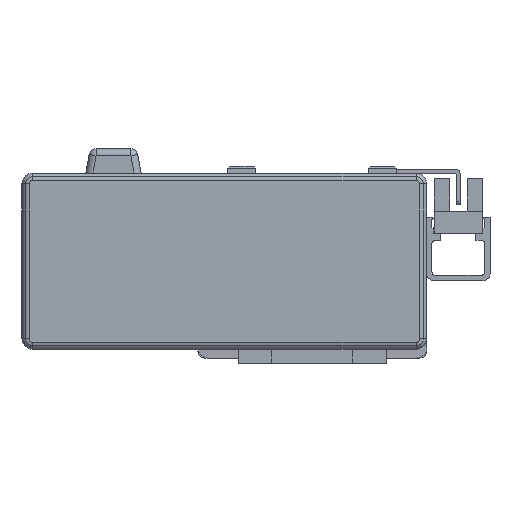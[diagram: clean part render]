
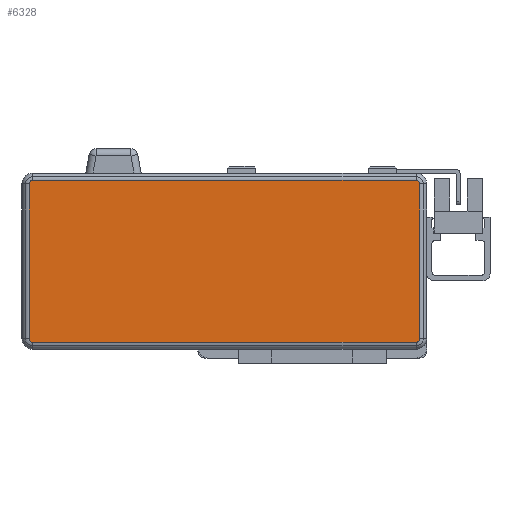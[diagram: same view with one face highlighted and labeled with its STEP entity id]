
A CAD part, left-side view. The second image highlights one B-rep face of the part: STEP entity #6328.
In plain terms, the highlighted planar face has unit normal (-1, 0, 0) as drawn and (0, 0, 1) by its records, which use the part's own axes.
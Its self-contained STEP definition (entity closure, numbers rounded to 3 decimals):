
#276 = VECTOR ( 'NONE', #8045, 1000. ) ;
#378 = LINE ( 'NONE', #1188, #276 ) ;
#395 = VERTEX_POINT ( 'NONE', #9225 ) ;
#436 = DIRECTION ( 'NONE',  ( 0., 0., 1. ) ) ;
#683 = VECTOR ( 'NONE', #3147, 1000. ) ;
#718 = LINE ( 'NONE', #16557, #683 ) ;
#746 = CIRCLE ( 'NONE', #5226, 1. ) ;
#1000 = DIRECTION ( 'NONE',  ( 0., 0., 1. ) ) ;
#1188 = CARTESIAN_POINT ( 'NONE',  ( -55.5, 0., 40. ) ) ;
#1318 = CIRCLE ( 'NONE', #5446, 1. ) ;
#1404 = VECTOR ( 'NONE', #20177, 1000. ) ;
#1427 = LINE ( 'NONE', #13721, #1404 ) ;
#1493 = VERTEX_POINT ( 'NONE', #26082 ) ;
#1557 = CARTESIAN_POINT ( 'NONE',  ( -54.5, -22., 40. ) ) ;
#1664 = CIRCLE ( 'NONE', #5531, 1. ) ;
#1874 = VECTOR ( 'NONE', #17619, 1000. ) ;
#1930 = LINE ( 'NONE', #17706, #1874 ) ;
#2371 = DIRECTION ( 'NONE',  ( 0., 0., 1. ) ) ;
#2717 = CARTESIAN_POINT ( 'NONE',  ( -54.5, 23., 40. ) ) ;
#3071 = CARTESIAN_POINT ( 'NONE',  ( 55.5, -22., 40. ) ) ;
#3147 = DIRECTION ( 'NONE',  ( -1., 0., 0. ) ) ;
#3836 = DIRECTION ( 'NONE',  ( -1., 0., 0. ) ) ;
#4401 = VERTEX_POINT ( 'NONE', #27912 ) ;
#4447 = VERTEX_POINT ( 'NONE', #17860 ) ;
#4996 = AXIS2_PLACEMENT_3D ( 'NONE', #1557, #17200, #3836 ) ;
#5064 = CARTESIAN_POINT ( 'NONE',  ( -55.5, -22., 40. ) ) ;
#5226 = AXIS2_PLACEMENT_3D ( 'NONE', #14412, #1000, #16645 ) ;
#5446 = AXIS2_PLACEMENT_3D ( 'NONE', #13815, #436, #16089 ) ;
#5531 = AXIS2_PLACEMENT_3D ( 'NONE', #15801, #2371, #17990 ) ;
#5926 = VERTEX_POINT ( 'NONE', #2717 ) ;
#6328 = ADVANCED_FACE ( 'NONE', ( #15116 ), #7762, .F. ) ;
#7762 = PLANE ( 'NONE',  #11629 ) ;
#8045 = DIRECTION ( 'NONE',  ( 0., -1., 0. ) ) ;
#8441 = EDGE_CURVE ( 'NONE', #395, #1493, #1930, .T. ) ;
#8490 = EDGE_CURVE ( 'NONE', #1493, #27071, #1664, .T. ) ;
#8530 = EDGE_CURVE ( 'NONE', #27071, #4447, #1427, .T. ) ;
#8537 = EDGE_CURVE ( 'NONE', #4447, #4401, #1318, .T. ) ;
#8620 = EDGE_CURVE ( 'NONE', #4401, #5926, #718, .T. ) ;
#8629 = EDGE_CURVE ( 'NONE', #5926, #26832, #746, .T. ) ;
#8672 = EDGE_CURVE ( 'NONE', #26832, #26926, #378, .T. ) ;
#8715 = EDGE_CURVE ( 'NONE', #26926, #395, #27824, .T. ) ;
#9225 = CARTESIAN_POINT ( 'NONE',  ( -54.5, -23., 40. ) ) ;
#11629 = AXIS2_PLACEMENT_3D ( 'NONE', #18711, #12224, #26896 ) ;
#12224 = DIRECTION ( 'NONE',  ( 0., 0., -1. ) ) ;
#13721 = CARTESIAN_POINT ( 'NONE',  ( 55.5, 0., 40. ) ) ;
#13815 = CARTESIAN_POINT ( 'NONE',  ( 54.5, 22., 40. ) ) ;
#14412 = CARTESIAN_POINT ( 'NONE',  ( -54.5, 22., 40. ) ) ;
#15116 = FACE_OUTER_BOUND ( 'NONE', #18085, .T. ) ;
#15801 = CARTESIAN_POINT ( 'NONE',  ( 54.5, -22., 40. ) ) ;
#16089 = DIRECTION ( 'NONE',  ( -1., 0., 0. ) ) ;
#16110 = CARTESIAN_POINT ( 'NONE',  ( -55.5, 22., 40. ) ) ;
#16557 = CARTESIAN_POINT ( 'NONE',  ( 0., 23., 40. ) ) ;
#16645 = DIRECTION ( 'NONE',  ( -1., 0., 0. ) ) ;
#17200 = DIRECTION ( 'NONE',  ( 0., 0., 1. ) ) ;
#17253 = ORIENTED_EDGE ( 'NONE', *, *, #8441, .T. ) ;
#17283 = ORIENTED_EDGE ( 'NONE', *, *, #8490, .T. ) ;
#17396 = ORIENTED_EDGE ( 'NONE', *, *, #8530, .T. ) ;
#17454 = ORIENTED_EDGE ( 'NONE', *, *, #8537, .T. ) ;
#17505 = ORIENTED_EDGE ( 'NONE', *, *, #8620, .T. ) ;
#17605 = ORIENTED_EDGE ( 'NONE', *, *, #8629, .T. ) ;
#17614 = ORIENTED_EDGE ( 'NONE', *, *, #8672, .T. ) ;
#17619 = DIRECTION ( 'NONE',  ( 1., 0., 0. ) ) ;
#17706 = CARTESIAN_POINT ( 'NONE',  ( 0., -23., 40. ) ) ;
#17722 = ORIENTED_EDGE ( 'NONE', *, *, #8715, .T. ) ;
#17860 = CARTESIAN_POINT ( 'NONE',  ( 55.5, 22., 40. ) ) ;
#17990 = DIRECTION ( 'NONE',  ( -1., 0., 0. ) ) ;
#18085 = EDGE_LOOP ( 'NONE', ( #17253, #17283, #17396, #17454, #17505, #17605, #17614, #17722 ) ) ;
#18711 = CARTESIAN_POINT ( 'NONE',  ( 0., 0., 40. ) ) ;
#20177 = DIRECTION ( 'NONE',  ( 0., 1., 0. ) ) ;
#26082 = CARTESIAN_POINT ( 'NONE',  ( 54.5, -23., 40. ) ) ;
#26832 = VERTEX_POINT ( 'NONE', #16110 ) ;
#26896 = DIRECTION ( 'NONE',  ( -1., 0., 0. ) ) ;
#26926 = VERTEX_POINT ( 'NONE', #5064 ) ;
#27071 = VERTEX_POINT ( 'NONE', #3071 ) ;
#27824 = CIRCLE ( 'NONE', #4996, 1. ) ;
#27912 = CARTESIAN_POINT ( 'NONE',  ( 54.5, 23., 40. ) ) ;
